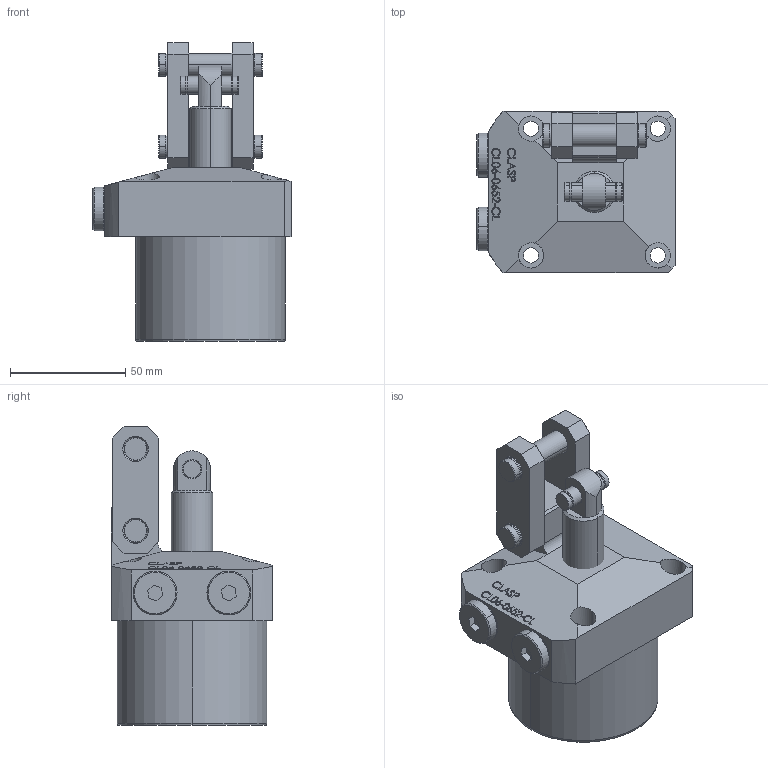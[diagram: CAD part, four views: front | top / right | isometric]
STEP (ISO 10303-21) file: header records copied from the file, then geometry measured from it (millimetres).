
FILE_DESCRIPTION (( 'STEP AP203' ), '1' );
FILE_NAME ('CL06-0652cl.STEP', '2022-07-05T17:35:42', ( '' ), ( '' ), 'SwSTEP 2.0', 'SolidWorks 2017', '' );
FILE_SCHEMA (( 'CONFIG_CONTROL_DESIGN' ));
Length unit declared in the file: millimetre
Products named in the file (7): CL06-0652 Part1 cl; CL06-0652 Part3 cl; CL06-0652 Part2 cl; CL06-0652 Part5 cl; CL06-0652 Part6 cl; CL06-0652 Part7 cl; CL06-0652cl
Assembly tree (9 placements, depth 2):
  CL06-0652cl
    CL06-0652 Part1 cl
    CL06-0652 Part3 cl
    CL06-0652 Part2 cl  x2
    CL06-0652 Part5 cl  x2
    CL06-0652 Part6 cl  x2
    CL06-0652 Part7 cl
Bounding box: 86 x 70 x 129.75 mm (x, y, z)
Volume: 332448.2 mm3; surface area: 51595.2 mm2
Topology: 9 solids, 9 shells, 423 faces, 1026 edges, 664 vertices
Faces by surface type: plane 186, bspline 98, cylinder 91, cone 48
Entity records: 17411 total; most frequent: CARTESIAN_POINT 8478, ORIENTED_EDGE 1800, DIRECTION 1408, EDGE_CURVE 900, VERTEX_POINT 588, LINE 516, VECTOR 516, AXIS2_PLACEMENT_3D 446
